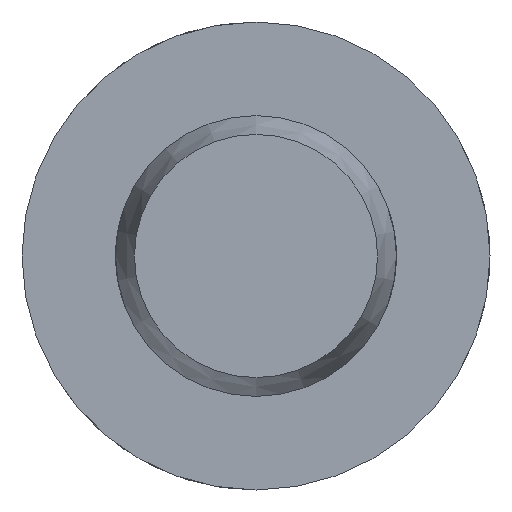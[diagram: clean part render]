
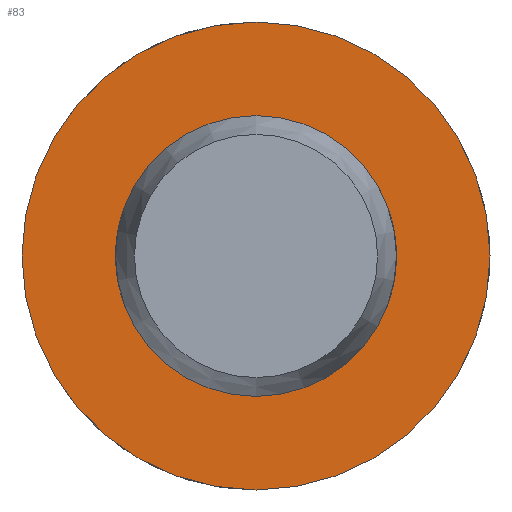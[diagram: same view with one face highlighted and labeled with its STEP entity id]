
A CAD part, left-side view. The second image highlights one B-rep face of the part: STEP entity #83.
In plain terms, the highlighted planar face has unit normal (-1, 0, 0).
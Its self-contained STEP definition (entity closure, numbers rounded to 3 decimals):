
#83 = ADVANCED_FACE( '', ( #128, #129 ), #130, .F. );
#128 = FACE_OUTER_BOUND( '', #205, .T. );
#129 = FACE_BOUND( '', #206, .T. );
#130 = PLANE( '', #207 );
#205 = EDGE_LOOP( '', ( #320 ) );
#206 = EDGE_LOOP( '', ( #321 ) );
#207 = AXIS2_PLACEMENT_3D( '', #322, #323, #324 );
#320 = ORIENTED_EDGE( '', *, *, #484, .F. );
#321 = ORIENTED_EDGE( '', *, *, #474, .T. );
#322 = CARTESIAN_POINT( '', ( 45.6, 6., 0. ) );
#323 = DIRECTION( '', ( 1., 0., 0. ) );
#324 = DIRECTION( '', ( 0., 0., -1. ) );
#474 = EDGE_CURVE( '', #545, #545, #546, .T. );
#484 = EDGE_CURVE( '', #563, #563, #564, .T. );
#545 = VERTEX_POINT( '', #734 );
#546 = CIRCLE( '', #735, 6. );
#563 = VERTEX_POINT( '', #903 );
#564 = CIRCLE( '', #904, 10. );
#734 = CARTESIAN_POINT( '', ( 45.6, 0., -6. ) );
#735 = AXIS2_PLACEMENT_3D( '', #965, #966, #967 );
#903 = CARTESIAN_POINT( '', ( 45.6, 0., -10. ) );
#904 = AXIS2_PLACEMENT_3D( '', #986, #987, #988 );
#965 = CARTESIAN_POINT( '', ( 45.6, 0., 0. ) );
#966 = DIRECTION( '', ( 1., 0., 0. ) );
#967 = DIRECTION( '', ( 0., 0., -1. ) );
#986 = CARTESIAN_POINT( '', ( 45.6, 0., 0. ) );
#987 = DIRECTION( '', ( 1., 0., 0. ) );
#988 = DIRECTION( '', ( 0., 0., -1. ) );
